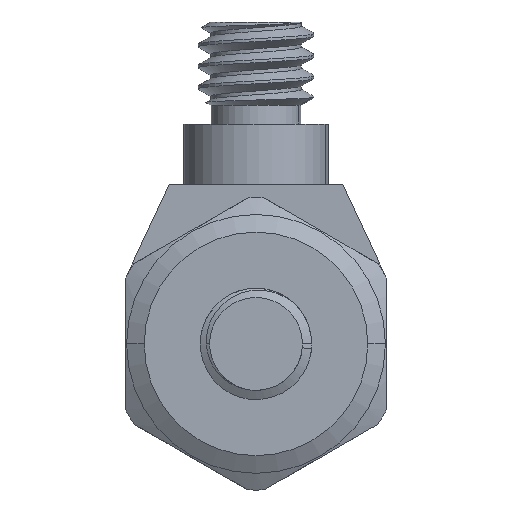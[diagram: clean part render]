
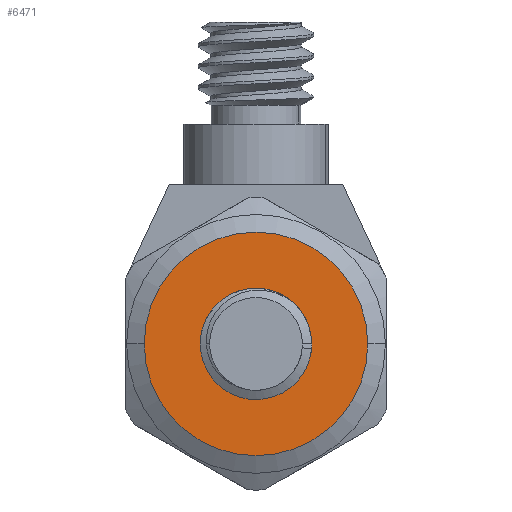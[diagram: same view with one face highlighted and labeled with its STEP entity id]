
A CAD part, front view. The second image highlights one B-rep face of the part: STEP entity #6471.
In plain terms, the highlighted planar face has unit normal (0, -1, 0).
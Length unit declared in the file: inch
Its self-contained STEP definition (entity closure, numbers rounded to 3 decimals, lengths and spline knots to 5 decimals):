
#511 = CIRCLE ( 'NONE', #9806, 0.0435 ) ;
#1104 = ORIENTED_EDGE ( 'NONE', *, *, #11726, .T. ) ;
#1216 = CIRCLE ( 'NONE', #6928, 0.12045 ) ;
#1338 = AXIS2_PLACEMENT_3D ( 'NONE', #24511, #11418, #26711 ) ;
#1496 = EDGE_LOOP ( 'NONE', ( #1104, #3452 ) ) ;
#2305 = ORIENTED_EDGE ( 'NONE', *, *, #22298, .F. ) ;
#2467 = AXIS2_PLACEMENT_3D ( 'NONE', #12329, #27635, #14538 ) ;
#3452 = ORIENTED_EDGE ( 'NONE', *, *, #25601, .T. ) ;
#4195 = DIRECTION ( 'NONE',  ( 0., 1., 0. ) ) ;
#4390 = CARTESIAN_POINT ( 'NONE',  ( 0., -0.177, 0. ) ) ;
#5180 = CARTESIAN_POINT ( 'NONE',  ( 0.0435, -0.177, 0. ) ) ;
#5423 = CARTESIAN_POINT ( 'NONE',  ( -0.12045, -0.177, 0. ) ) ;
#6471 = ADVANCED_FACE ( 'NONE', ( #20466, #26279 ), #9055, .F. ) ;
#6627 = DIRECTION ( 'NONE',  ( -1., 0., 0. ) ) ;
#6928 = AXIS2_PLACEMENT_3D ( 'NONE', #17266, #4195, #19467 ) ;
#8641 = DIRECTION ( 'NONE',  ( -1., 0., 0. ) ) ;
#8698 = DIRECTION ( 'NONE',  ( 0., 1., 0. ) ) ;
#8730 = CARTESIAN_POINT ( 'NONE',  ( 0., -0.177, 0.12045 ) ) ;
#9055 = PLANE ( 'NONE',  #17165 ) ;
#9393 = VERTEX_POINT ( 'NONE', #5180 ) ;
#9806 = AXIS2_PLACEMENT_3D ( 'NONE', #4390, #19639, #6627 ) ;
#10792 = CIRCLE ( 'NONE', #2467, 0.0435 ) ;
#10941 = CIRCLE ( 'NONE', #1338, 0.12045 ) ;
#11418 = DIRECTION ( 'NONE',  ( 0., 1., 0. ) ) ;
#11698 = EDGE_CURVE ( 'NONE', #26145, #18226, #1216, .T. ) ;
#11726 = EDGE_CURVE ( 'NONE', #25485, #9393, #511, .T. ) ;
#12329 = CARTESIAN_POINT ( 'NONE',  ( 0., -0.177, 0. ) ) ;
#13679 = CARTESIAN_POINT ( 'NONE',  ( -0.0435, -0.177, 0. ) ) ;
#14538 = DIRECTION ( 'NONE',  ( -1., 0., 0. ) ) ;
#16934 = EDGE_LOOP ( 'NONE', ( #2305, #26680 ) ) ;
#16968 = CARTESIAN_POINT ( 'NONE',  ( 0.12045, -0.177, 0. ) ) ;
#17165 = AXIS2_PLACEMENT_3D ( 'NONE', #8730, #8698, #8641 ) ;
#17266 = CARTESIAN_POINT ( 'NONE',  ( 0., -0.177, 0. ) ) ;
#18226 = VERTEX_POINT ( 'NONE', #5423 ) ;
#19467 = DIRECTION ( 'NONE',  ( -1., 0., 0. ) ) ;
#19639 = DIRECTION ( 'NONE',  ( 0., 1., 0. ) ) ;
#20466 = FACE_OUTER_BOUND ( 'NONE', #16934, .T. ) ;
#22298 = EDGE_CURVE ( 'NONE', #18226, #26145, #10941, .T. ) ;
#24511 = CARTESIAN_POINT ( 'NONE',  ( 0., -0.177, 0. ) ) ;
#25485 = VERTEX_POINT ( 'NONE', #13679 ) ;
#25601 = EDGE_CURVE ( 'NONE', #9393, #25485, #10792, .T. ) ;
#26145 = VERTEX_POINT ( 'NONE', #16968 ) ;
#26279 = FACE_BOUND ( 'NONE', #1496, .T. ) ;
#26680 = ORIENTED_EDGE ( 'NONE', *, *, #11698, .F. ) ;
#26711 = DIRECTION ( 'NONE',  ( -1., 0., 0. ) ) ;
#27635 = DIRECTION ( 'NONE',  ( 0., 1., 0. ) ) ;
